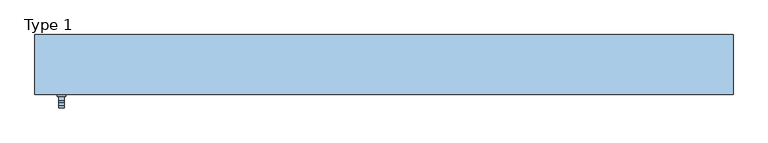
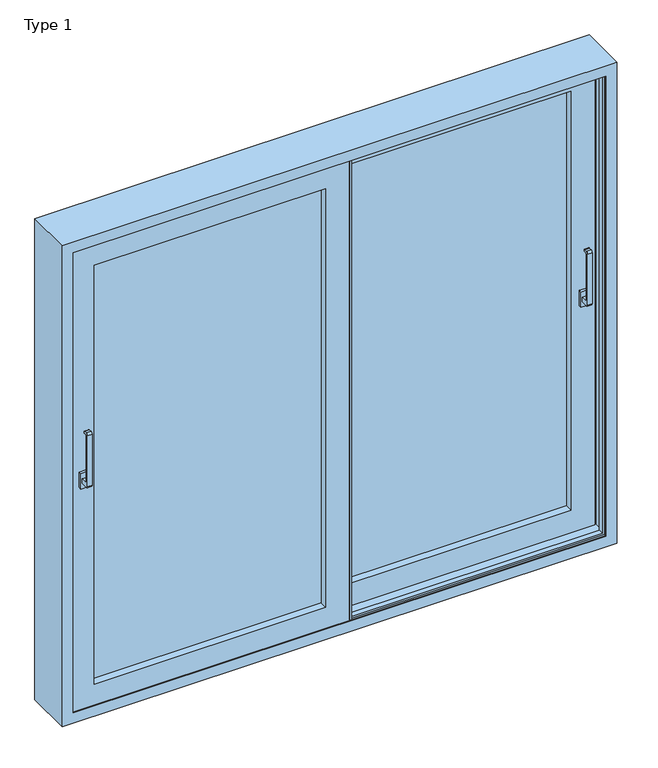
"""IFC4 building model written with IfcOpenShell, lengths in millimetres: window geometry, ETEM_ES70_Double_Fly Screen_Lift_Sliding : Type 1."""

from ifc_helpers import new_model, si_unit, point, frame, frame_2d, origin, place, context, project, spatial, polyline, circle_curve, ellipse_curve, trimmed, segment, composite_curve, outline, extrude, faceted_brep, source, transform, mapped, element, save
from ifc_brep_helpers import plane_surface, cylinder_surface, revolved_surface, advanced_brep


def type_1_2f14744b(model_context):
    return source(origin(), model_context, "Body", "SolidModel", [
        extrude(outline(polyline([(1123.5, 7.6), (1093.5, 7.6), (1093.5, 20.6), (1123.5, 20.6), (1123.5, 7.6)])), frame((0.0, 0.0, 1065.0), z_axis=(0.0, 0.0, 1.0), x_axis=(1.0, 0.0, 0.0)), (0.0, 0.0, 1.0), 70.0),
        extrude(outline(composite_curve([segment(polyline([(7.6, 1090.0), (-23.9736848, 1090.0)]), True, "CONTINUOUS"), segment(trimmed(circle_curve(frame_2d((-23.9736848, 1098.4263152)), 8.4263152), [point((-23.9736848, 1090.0))], [point((-32.4, 1098.4263152))], False, "CARTESIAN"), True, "CONTINUOUS"), segment(polyline([(-32.4, 1098.4263152), (-32.4, 1331.5736848)]), True, "CONTINUOUS"), segment(trimmed(circle_curve(frame_2d((-23.9736848, 1331.5736848)), 8.4263152), [point((-32.4, 1331.5736848))], [point((-23.9736848, 1340.0))], False, "CARTESIAN"), True, "CONTINUOUS"), segment(polyline([(-23.9736848, 1340.0), (-12.4, 1340.0)]), True, "CONTINUOUS"), segment(trimmed(circle_curve(frame_2d((-12.4, 1335.0)), 5.0), [point((-12.4, 1340.0))], [point((-12.4, 1330.0))], False, "CARTESIAN"), True, "CONTINUOUS"), segment(polyline([(-12.4, 1330.0), (-18.8644661, 1330.0)]), True, "CONTINUOUS"), segment(trimmed(circle_curve(frame_2d((-18.8644661, 1326.4644661)), 3.5355339), [point((-18.8644661, 1330.0))], [point((-22.4, 1326.4644661))], True, "CARTESIAN"), True, "CONTINUOUS"), segment(polyline([(-22.4, 1326.4644661), (-22.4, 1113.5355339)]), True, "CONTINUOUS"), segment(trimmed(circle_curve(frame_2d((-18.8644661, 1113.5355339)), 3.5355339), [point((-22.4, 1113.5355339))], [point((-18.8644661, 1110.0))], True, "CARTESIAN"), True, "CONTINUOUS"), segment(polyline([(-18.8644661, 1110.0), (7.6, 1110.0), (7.6, 1090.0)]), True, "CONTINUOUS")], self_intersect=False)), frame((1098.5, 0.0, 0.0), z_axis=(1.0, 0.0, 0.0), x_axis=(0.0, 1.0, 0.0)), (0.0, 0.0, 1.0), 20.0),
        extrude(outline(polyline([(-1093.5, -82.4), (-1123.5, -82.4), (-1123.5, -69.4), (-1093.5, -69.4), (-1093.5, -82.4)])), frame((0.0, 0.0, 1065.0), z_axis=(0.0, 0.0, 1.0), x_axis=(1.0, 0.0, 0.0)), (0.0, 0.0, 1.0), 70.0),
        extrude(outline(composite_curve([segment(polyline([(-82.4, 1090.0), (-113.9736848, 1090.0)]), True, "CONTINUOUS"), segment(trimmed(circle_curve(frame_2d((-113.9736848, 1098.4263152)), 8.4263152), [point((-113.9736848, 1090.0))], [point((-122.4, 1098.4263152))], False, "CARTESIAN"), True, "CONTINUOUS"), segment(polyline([(-122.4, 1098.4263152), (-122.4, 1331.5736848)]), True, "CONTINUOUS"), segment(trimmed(circle_curve(frame_2d((-113.9736848, 1331.5736848)), 8.4263152), [point((-122.4, 1331.5736848))], [point((-113.9736848, 1340.0))], False, "CARTESIAN"), True, "CONTINUOUS"), segment(polyline([(-113.9736848, 1340.0), (-102.4, 1340.0)]), True, "CONTINUOUS"), segment(trimmed(circle_curve(frame_2d((-102.4, 1335.0)), 5.0), [point((-102.4, 1340.0))], [point((-102.4, 1330.0))], False, "CARTESIAN"), True, "CONTINUOUS"), segment(polyline([(-102.4, 1330.0), (-108.8644661, 1330.0)]), True, "CONTINUOUS"), segment(trimmed(circle_curve(frame_2d((-108.8644661, 1326.4644661)), 3.5355339), [point((-108.8644661, 1330.0))], [point((-112.4, 1326.4644661))], True, "CARTESIAN"), True, "CONTINUOUS"), segment(polyline([(-112.4, 1326.4644661), (-112.4, 1113.5355339)]), True, "CONTINUOUS"), segment(trimmed(circle_curve(frame_2d((-108.8644661, 1113.5355339)), 3.5355339), [point((-112.4, 1113.5355339))], [point((-108.8644661, 1110.0))], True, "CARTESIAN"), True, "CONTINUOUS"), segment(polyline([(-108.8644661, 1110.0), (-82.4, 1110.0), (-82.4, 1090.0)]), True, "CONTINUOUS")], self_intersect=False)), frame((-1118.5, 0.0, 0.0), z_axis=(1.0, 0.0, 0.0), x_axis=(0.0, 1.0, 0.0)), (0.0, 0.0, 1.0), 20.0),
        faceted_brep([(46.5, -57.0, 2161.0), (46.5, -69.4, 2161.0), (46.5, -69.4, 39.0), (46.5, -57.0, 39.0), (-1161.0, -69.4, 2161.0), (-1161.0, -69.4, 39.0), (-56.5, -69.4, 142.0), (-1058.0, -69.4, 142.0), (-1058.0, -69.4, 2058.0), (-56.5, -69.4, 2058.0), (-1161.0, -57.0, 39.0), (-1161.0, -57.0, 2161.0), (15.4, -57.0, 2129.9), (-1129.9, -57.0, 2129.9), (-1129.9, -57.0, 70.1), (15.4, -57.0, 70.1), (15.4, -11.8, 2129.9), (15.4, -11.8, 70.1), (-1129.9, -11.8, 70.1), (46.5, -11.8, 2161.0), (-1161.0, -11.8, 2161.0), (-1161.0, -11.8, 39.0), (46.5, -11.8, 39.0), (-1129.9, -11.8, 2129.9), (46.5, 0.6, 2161.0), (46.5, 0.6, 39.0), (-1161.0, 0.6, 39.0), (-1161.0, 0.6, 2161.0), (-56.5, 0.6, 2058.0), (-1058.0, 0.6, 2058.0), (-1058.0, 0.6, 142.0), (-56.5, 0.6, 142.0)], [[[0, 1, 2, 3]], [[1, 4, 5, 2], [6, 7, 8, 9]], [[3, 2, 5, 10]], [[3, 10, 11, 0], [12, 13, 14, 15]], [[16, 12, 15, 17]], [[17, 15, 14, 18]], [[19, 20, 21, 22], [17, 18, 23, 16]], [[24, 19, 22, 25]], [[25, 22, 21, 26]], [[25, 26, 27, 24], [28, 29, 30, 31]], [[9, 28, 31, 6]], [[6, 31, 30, 7]], [[10, 5, 4, 11]], [[18, 14, 13, 23]], [[26, 21, 20, 27]], [[7, 30, 29, 8]], [[11, 4, 1, 0]], [[23, 13, 12, 16]], [[27, 20, 19, 24]], [[8, 29, 28, 9]]]),
        faceted_brep([(-46.5, 78.2, 2161.0), (-46.5, 90.6, 2161.0), (-46.5, 90.6, 39.0), (-46.5, 78.2, 39.0), (1161.0, 90.6, 39.0), (1161.0, 78.2, 39.0), (1161.0, 90.6, 2161.0), (1058.0, 90.6, 142.0), (1058.0, 90.6, 2058.0), (56.5, 90.6, 2058.0), (56.5, 90.6, 142.0), (1161.0, 78.2, 2161.0), (-15.4, 78.2, 70.1), (-15.4, 78.2, 2129.9), (1129.9, 78.2, 2129.9), (1129.9, 78.2, 70.1), (-15.4, 33.0, 2129.9), (-15.4, 33.0, 70.1), (1129.9, 33.0, 70.1), (1129.9, 33.0, 2129.9), (-46.5, 33.0, 39.0), (-46.5, 33.0, 2161.0), (1161.0, 33.0, 2161.0), (1161.0, 33.0, 39.0), (-46.5, 20.6, 2161.0), (-46.5, 20.6, 39.0), (1161.0, 20.6, 39.0), (1161.0, 20.6, 2161.0), (56.5, 20.6, 142.0), (56.5, 20.6, 2058.0), (1058.0, 20.6, 2058.0), (1058.0, 20.6, 142.0)], [[[0, 1, 2, 3]], [[3, 2, 4, 5]], [[2, 1, 6, 4], [7, 8, 9, 10]], [[5, 4, 6, 11]], [[5, 11, 0, 3], [12, 13, 14, 15]], [[16, 13, 12, 17]], [[17, 12, 15, 18]], [[18, 15, 14, 19]], [[20, 21, 22, 23], [18, 19, 16, 17]], [[24, 21, 20, 25]], [[25, 20, 23, 26]], [[26, 23, 22, 27]], [[26, 27, 24, 25], [28, 29, 30, 31]], [[9, 29, 28, 10]], [[10, 28, 31, 7]], [[7, 31, 30, 8]], [[11, 6, 1, 0]], [[19, 14, 13, 16]], [[27, 22, 21, 24]], [[8, 30, 29, 9]]]),
        extrude(outline(polyline([(56.5, -69.4), (46.5, -69.4), (46.5, 16.6), (56.5, 16.6), (56.5, -69.4)])), frame((0.0, 0.0, 39.0), z_axis=(0.0, 0.0, 1.0), x_axis=(1.0, 0.0, 0.0)), (0.0, 0.0, 1.0), 2122.0),
        extrude(outline(polyline([(-56.5, 6.6), (-56.5, 90.6), (-46.5, 90.6), (-46.5, 6.6), (-56.5, 6.6)])), frame((0.0, 0.0, 39.0), z_axis=(0.0, 0.0, 1.0), x_axis=(1.0, 0.0, 0.0)), (0.0, 0.0, 1.0), 2122.0),
        extrude(outline(polyline([(-56.5, -35.3992409), (-1058.0, -35.3992409), (-1058.0, -29.3992409), (-56.5, -29.3992409), (-56.5, -35.3992409)])), frame((0.0, 0.0, 142.0), z_axis=(0.0, 0.0, 1.0), x_axis=(1.0, 0.0, 0.0)), (0.0, 0.0, 1.0), 1916.0),
        extrude(outline(polyline([(56.5, 82.6007591), (1058.0, 82.6007591), (1058.0, 76.6007591), (56.5, 76.6007591), (56.5, 82.6007591)])), frame((0.0, 0.0, 142.0), z_axis=(0.0, 0.0, 1.0), x_axis=(1.0, 0.0, 0.0)), (0.0, 0.0, 1.0), 1916.0),
        faceted_brep([(1200.0, 130.0, 0.0), (-1200.0, 130.0, 0.0), (-1200.0, 130.0, 2200.0), (1200.0, 130.0, 2200.0), (1183.7, 130.0, 2183.7), (-1183.7, 130.0, 2183.7), (-1183.7, 130.0, 16.3), (1183.7, 130.0, 16.3), (1200.0, -76.0, 2200.0), (-1200.0, -76.0, 2200.0), (-1200.0, -76.0, 0.0), (1200.0, -76.0, 0.0), (1152.0, -76.0, 48.0), (-1152.0, -76.0, 48.0), (-1152.0, -76.0, 2152.0), (1152.0, -76.0, 2152.0), (1183.7, 60.1, 16.3), (1183.7, 109.1, 16.3), (-1183.7, 109.1, 16.3), (-1183.7, 60.1, 16.3), (1183.7, 60.1, 2183.7), (1183.7, 109.1, 2183.7), (-1183.7, 109.1, 2183.7), (-1183.7, 60.1, 2183.7), (1160.0, 60.1, 2160.0), (-1160.0, 60.1, 2160.0), (-1160.0, 60.1, 40.0), (1160.0, 60.1, 40.0), (1160.0, 74.1, 2160.0), (1160.0, 74.1, 40.0), (-1160.0, 74.1, 40.0), (-1160.0, 74.1, 2160.0), (1152.0, 74.1, 2152.0), (-1152.0, 74.1, 2152.0), (-1152.0, 74.1, 48.0), (1152.0, 74.1, 48.0), (1152.0, 51.1, 2152.0), (1152.0, 51.1, 48.0), (-1152.0, 51.1, 48.0), (1183.7, 51.1, 2183.7), (-1183.7, 51.1, 2183.7), (-1183.7, 51.1, 16.3), (1183.7, 51.1, 16.3), (-1152.0, 51.1, 2152.0), (1183.7, -29.9, 2183.7), (1183.7, -29.9, 16.3), (-1183.7, -29.9, 16.3), (-1183.7, -29.9, 2183.7), (1152.0, -29.9, 2152.0), (-1152.0, -29.9, 2152.0), (-1152.0, -29.9, 48.0), (1152.0, -29.9, 48.0), (1152.0, -52.9, 2152.0), (1152.0, -52.9, 48.0), (-1152.0, -52.9, 48.0), (1160.0, -52.9, 2160.0), (-1160.0, -52.9, 2160.0), (-1160.0, -52.9, 40.0), (1160.0, -52.9, 40.0), (-1152.0, -52.9, 2152.0), (1160.0, -38.9, 2160.0), (1160.0, -38.9, 40.0), (-1160.0, -38.9, 40.0), (1183.7, -38.9, 2183.7), (-1183.7, -38.9, 2183.7), (-1183.7, -38.9, 16.3), (1183.7, -38.9, 16.3), (-1160.0, -38.9, 2160.0), (1183.7, -72.2, 2183.7), (1183.7, -72.2, 16.3), (-1183.7, -72.2, 16.3), (-1183.7, -72.2, 2183.7), (1152.0, -72.2, 2152.0), (-1152.0, -72.2, 2152.0), (-1152.0, -72.2, 48.0), (1152.0, -72.2, 48.0), (1152.0, 109.1, 48.0), (-1152.0, 109.1, 48.0), (-1152.0, 109.1, 2152.0), (1152.0, 109.1, 2152.0), (-1183.7, 118.1, 16.3), (-1183.7, 118.1, 2183.7), (1183.7, 118.1, 16.3), (1183.7, 118.1, 2183.7), (1152.0, 118.1, 2152.0), (-1152.0, 118.1, 2152.0), (-1152.0, 118.1, 48.0), (1152.0, 118.1, 48.0)], [[[0, 1, 2, 3], [4, 5, 6, 7]], [[8, 9, 10, 11], [12, 13, 14, 15]], [[16, 17, 18, 19]], [[20, 21, 17, 16]], [[19, 18, 22, 23]], [[16, 19, 23, 20], [24, 25, 26, 27]], [[28, 24, 27, 29]], [[29, 27, 26, 30]], [[29, 30, 31, 28], [32, 33, 34, 35]], [[36, 32, 35, 37]], [[37, 35, 34, 38]], [[39, 40, 41, 42], [37, 38, 43, 36]], [[44, 39, 42, 45]], [[45, 42, 41, 46]], [[45, 46, 47, 44], [48, 49, 50, 51]], [[52, 48, 51, 53]], [[53, 51, 50, 54]], [[55, 56, 57, 58], [53, 54, 59, 52]], [[60, 55, 58, 61]], [[61, 58, 57, 62]], [[63, 64, 65, 66], [61, 62, 67, 60]], [[68, 63, 66, 69]], [[69, 66, 65, 70]], [[69, 70, 71, 68], [72, 73, 74, 75]], [[15, 72, 75, 12]], [[12, 75, 74, 13]], [[30, 26, 25, 31]], [[38, 34, 33, 43]], [[46, 41, 40, 47]], [[54, 50, 49, 59]], [[62, 57, 56, 67]], [[70, 65, 64, 71]], [[13, 74, 73, 14]], [[23, 22, 21, 20]], [[31, 25, 24, 28]], [[43, 33, 32, 36]], [[47, 40, 39, 44]], [[59, 49, 48, 52]], [[67, 56, 55, 60]], [[71, 64, 63, 68]], [[14, 73, 72, 15]], [[8, 11, 0, 3]], [[0, 11, 10, 1]], [[21, 22, 18, 17], [76, 77, 78, 79]], [[1, 10, 9, 2]], [[80, 6, 5, 81]], [[82, 7, 6, 80]], [[83, 4, 7, 82]], [[82, 80, 81, 83], [84, 85, 86, 87]], [[79, 84, 87, 76]], [[76, 87, 86, 77]], [[77, 86, 85, 78]], [[2, 9, 8, 3]], [[81, 5, 4, 83]], [[78, 85, 84, 79]]]),
        extrude(outline(polyline([(56.5, 60.6007591), (1058.0, 60.6007591), (1058.0, 54.6007591), (56.5, 54.6007591), (56.5, 60.6007591)])), frame((0.0, 0.0, 142.0), z_axis=(0.0, 0.0, 1.0), x_axis=(1.0, 0.0, 0.0)), (0.0, 0.0, 1.0), 1916.0),
        extrude(outline(polyline([(-56.5, -13.3992409), (-1058.0, -13.3992409), (-1058.0, -7.3992409), (-56.5, -7.3992409), (-56.5, -13.3992409)])), frame((0.0, 0.0, 142.0), z_axis=(0.0, 0.0, 1.0), x_axis=(1.0, 0.0, 0.0)), (0.0, 0.0, 1.0), 1916.0),
        extrude(outline(polyline([(-52.4499998, 102.6007546), (-1090.0, 102.6007546), (-1090.0, 103.6007546), (-52.4499998, 103.6007546), (-52.4499998, 102.6007546)])), frame((0.0, 0.0, 110.0), z_axis=(0.0, 0.0, 1.0), x_axis=(1.0, 0.0, 0.0)), (0.0, 0.0, 1.0), 1980.0),
        advanced_brep(
        [(18.5500002, 102.0050033, 2161.0), (15.5500002, 100.6507546, 2158.0), (15.5500002, 100.6507546, 42.0), (18.5500002, 102.0050033, 39.0), (-1158.0, 100.6507546, 2158.0), (-1158.0, 100.6507546, 42.0), (-27.6499998, 100.6507546, 85.2), (-1114.8, 100.6507546, 85.2), (-1114.8, 100.6507546, 2114.8), (-27.6499998, 100.6507546, 2114.8), (-1161.0, 102.0050033, 39.0), (18.5500002, 105.1507546, 2161.0), (18.5500002, 105.1507546, 39.0), (-1161.0, 105.1507546, 39.0), (-1161.0, 105.1507546, 2161.0), (8.2500002, 105.1507546, 2150.7), (-1150.7, 105.1507546, 2150.7), (-1150.7, 105.1507546, 49.3), (8.2500002, 105.1507546, 49.3), (8.2500002, 122.1507546, 2150.7), (8.2500002, 122.1507546, 49.3), (-1150.7, 122.1507546, 49.3), (18.5500002, 122.1507546, 2161.0), (-1161.0, 122.1507546, 2161.0), (-1161.0, 122.1507546, 39.0), (18.5500002, 122.1507546, 39.0), (-1150.7, 122.1507546, 2150.7), (18.5500002, 125.296506, 2161.0), (18.5500002, 125.296506, 39.0), (-1161.0, 125.296506, 39.0), (15.5500002, 126.6507546, 2158.0), (15.5500002, 126.6507546, 42.0), (-1158.0, 126.6507546, 42.0), (-1158.0, 126.6507546, 2158.0), (-27.6499998, 126.6507546, 2114.8), (-1114.8, 126.6507546, 2114.8), (-1114.8, 126.6507546, 85.2), (-27.6499998, 126.6507546, 85.2), (-56.4499998, 103.6507546, 2086.0), (-56.4499998, 122.6507546, 2086.0), (-56.4499998, 122.6507546, 114.0), (-56.4499998, 103.6507546, 114.0), (-53.1558821, 126.5879783, 2089.2941177), (-53.1558821, 126.5879783, 110.7058823), (-1086.0, 122.6507546, 114.0), (-1086.0, 103.6507546, 114.0), (-49.0499998, 103.6507546, 2093.4), (-1093.4, 103.6507546, 2093.4), (-1093.4, 103.6507546, 106.6), (-49.0499998, 103.6507546, 106.6), (-1086.0, 103.6507546, 2086.0), (-1161.0, 102.0050033, 2161.0), (-1161.0, 125.296506, 2161.0), (-1089.2941177, 126.5879783, 110.7058823), (-1086.0, 122.6507546, 2086.0), (-1089.2941177, 126.5879783, 2089.2941177), (-27.6499998, 108.9507546, 85.2), (-1114.8, 108.9507546, 85.2), (-1114.8, 108.9507546, 2114.8), (-27.6499998, 108.9507546, 2114.8), (-1114.8, 118.3507546, 85.2), (-1114.8, 118.3507546, 2114.8), (-27.6499998, 118.3507546, 85.2), (-27.6499998, 118.3507546, 2114.8), (-47.8499998, 108.9507546, 2094.6), (-47.8499998, 102.3507546, 2094.6), (-47.8499998, 102.3507546, 105.4), (-47.8499998, 108.9507546, 105.4), (-47.3047319, 101.852808, 2095.1452679), (-47.3047319, 101.852808, 104.8547321), (-1094.6, 102.3507546, 105.4), (-1094.6, 108.9507546, 105.4), (-1094.6, 108.9507546, 2094.6), (-54.0499998, 118.3507546, 2088.4), (-1088.4, 118.3507546, 2088.4), (-1088.4, 118.3507546, 111.6), (-54.0499998, 118.3507546, 111.6), (-55.2499998, 119.5507546, 2087.2), (-55.2499998, 119.5507546, 112.8), (-1087.2, 119.5507546, 112.8), (-55.2499998, 122.6507546, 2087.2), (-55.2499998, 122.6507546, 112.8), (-1087.2, 122.6507546, 112.8), (-52.9441174, 125.4068112, 2089.5058824), (-52.9441174, 125.4068112, 110.4941176), (-1089.5058824, 125.4068112, 110.4941176), (-1095.1452679, 101.852808, 104.8547321), (-1094.6, 102.3507546, 2094.6), (-1087.2, 119.5507546, 2087.2), (-1087.2, 122.6507546, 2087.2), (-1089.5058824, 125.4068112, 2089.5058824), (-1095.1452679, 101.852808, 2095.1452679), (-1093.4, 100.6507546, 106.6), (-1093.4, 100.6507546, 2093.4), (-49.0499998, 100.6507546, 106.6), (-49.0499998, 100.6507546, 2093.4), (-47.2499998, 100.6507546, 2095.2), (-1095.2, 100.6507546, 2095.2), (-1095.2, 100.6507546, 104.8), (-47.2499998, 100.6507546, 104.8)],
        [
            (0, 1, ellipse_curve(frame((15.5500002, 104.6507546, 2158.0), z_axis=(0.7071067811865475, 0.0, -0.7071067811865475), x_axis=(0.7071067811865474, 0.0, 0.7071067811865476)), 5.6568542, 4.0)),
            (1, 2),
            (2, 3, ellipse_curve(frame((15.5500002, 104.6507546, 42.0), z_axis=(0.7071067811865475, 0.0, 0.7071067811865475), x_axis=(-0.7071067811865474, 0.0, 0.7071067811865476)), 5.6568542, 4.0)),
            (3, 0),
            (1, 4),
            (4, 5),
            (5, 2),
            (6, 7),
            (7, 8),
            (8, 9),
            (9, 6),
            (5, 10, ellipse_curve(frame((-1158.0, 104.6507546, 42.0), z_axis=(0.7071067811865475, 0.0, -0.7071067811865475), x_axis=(0.7071067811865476, 0.0, 0.7071067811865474)), 5.6568542, 4.0)),
            (10, 3),
            (11, 0),
            (3, 12),
            (12, 11),
            (10, 13),
            (13, 12),
            (13, 14),
            (14, 11),
            (15, 16),
            (16, 17),
            (17, 18),
            (18, 15),
            (19, 15),
            (18, 20),
            (20, 19),
            (17, 21),
            (21, 20),
            (22, 23),
            (23, 24),
            (24, 25),
            (25, 22),
            (21, 26),
            (26, 19),
            (27, 22),
            (25, 28),
            (28, 27),
            (24, 29),
            (29, 28),
            (30, 27, ellipse_curve(frame((15.5500002, 122.6507546, 2158.0), z_axis=(0.7071067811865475, 0.0, -0.7071067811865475), x_axis=(0.7071067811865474, 0.0, 0.7071067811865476)), 5.6568542, 4.0)),
            (28, 31, ellipse_curve(frame((15.5500002, 122.6507546, 42.0), z_axis=(0.7071067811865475, 0.0, 0.7071067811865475), x_axis=(-0.7071067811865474, 0.0, 0.7071067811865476)), 5.6568542, 4.0)),
            (31, 30),
            (29, 32, ellipse_curve(frame((-1158.0, 122.6507546, 42.0), z_axis=(0.7071067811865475, 0.0, -0.7071067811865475), x_axis=(0.7071067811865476, 0.0, 0.7071067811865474)), 5.6568542, 4.0)),
            (32, 31),
            (32, 33),
            (33, 30),
            (34, 35),
            (35, 36),
            (36, 37),
            (37, 34),
            (38, 39),
            (39, 40),
            (40, 41),
            (41, 38),
            (39, 42, ellipse_curve(frame((-52.4499998, 122.6507546, 2090.0), z_axis=(0.7071067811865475, 0.0, -0.7071067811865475), x_axis=(0.7071067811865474, 0.0, 0.7071067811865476)), 5.6568542, 4.0)),
            (42, 43),
            (43, 40, ellipse_curve(frame((-52.4499998, 122.6507546, 110.0), z_axis=(0.7071067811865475, 0.0, 0.7071067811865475), x_axis=(-0.7071067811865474, 0.0, 0.7071067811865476)), 5.6568542, 4.0)),
            (40, 44),
            (44, 45),
            (45, 41),
            (46, 47),
            (47, 48),
            (48, 49),
            (49, 46),
            (45, 50),
            (50, 38),
            (4, 51, ellipse_curve(frame((-1158.0, 104.6507546, 2158.0), z_axis=(-0.7071067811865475, 0.0, -0.7071067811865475), x_axis=(0.7071067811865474, 0.0, -0.7071067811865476)), 5.6568542, 4.0)),
            (51, 10),
            (51, 14),
            (16, 26),
            (23, 52),
            (52, 29),
            (52, 33, ellipse_curve(frame((-1158.0, 122.6507546, 2158.0), z_axis=(-0.7071067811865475, 0.0, -0.7071067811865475), x_axis=(0.7071067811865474, 0.0, -0.7071067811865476)), 5.6568542, 4.0)),
            (43, 53),
            (53, 44, ellipse_curve(frame((-1090.0, 122.6507546, 110.0), z_axis=(0.7071067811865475, 0.0, -0.7071067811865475), x_axis=(0.7071067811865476, 0.0, 0.7071067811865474)), 5.6568542, 4.0)),
            (44, 54),
            (54, 50),
            (53, 55),
            (55, 54, ellipse_curve(frame((-1090.0, 122.6507546, 2090.0), z_axis=(-0.7071067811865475, 0.0, -0.7071067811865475), x_axis=(0.7071067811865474, 0.0, -0.7071067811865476)), 5.6568542, 4.0)),
            (6, 56),
            (56, 57),
            (57, 7),
            (57, 58),
            (58, 8),
            (9, 59),
            (59, 56),
            (60, 36),
            (35, 61),
            (61, 60),
            (62, 37),
            (60, 62),
            (63, 34),
            (62, 63),
            (64, 65),
            (65, 66),
            (66, 67),
            (67, 64),
            (65, 68, ellipse_curve(frame((-47.3499998, 102.3507546, 2095.1), z_axis=(-0.7071067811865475, 0.0, 0.7071067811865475), x_axis=(-0.7071067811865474, 0.0, -0.7071067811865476)), 0.7071068, 0.5)),
            (68, 69),
            (69, 66, ellipse_curve(frame((-47.3499998, 102.3507546, 104.9), z_axis=(-0.7071067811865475, 0.0, -0.7071067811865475), x_axis=(0.7071067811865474, 0.0, -0.7071067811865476)), 0.7071068, 0.5)),
            (66, 70),
            (70, 71),
            (71, 67),
            (59, 58),
            (71, 72),
            (72, 64),
            (61, 63),
            (73, 74),
            (74, 75),
            (75, 76),
            (76, 73),
            (77, 73, ellipse_curve(frame((-54.0499998, 119.5507546, 2088.4), z_axis=(-0.7071067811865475, 0.0, 0.7071067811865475), x_axis=(-0.7071067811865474, 0.0, -0.7071067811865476)), 1.6970563, 1.2)),
            (76, 78, ellipse_curve(frame((-54.0499998, 119.5507546, 111.6), z_axis=(-0.7071067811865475, 0.0, -0.7071067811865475), x_axis=(0.7071067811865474, 0.0, -0.7071067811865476)), 1.6970563, 1.2)),
            (78, 77),
            (75, 79, ellipse_curve(frame((-1088.4, 119.5507546, 111.6), z_axis=(-0.7071067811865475, 0.0, 0.7071067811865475), x_axis=(-0.7071067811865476, 0.0, -0.7071067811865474)), 1.6970563, 1.2)),
            (79, 78),
            (80, 77),
            (78, 81),
            (81, 80),
            (79, 82),
            (82, 81),
            (83, 80, ellipse_curve(frame((-52.4499998, 122.6507546, 2090.0), z_axis=(-0.7071067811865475, 0.0, 0.7071067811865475), x_axis=(-0.7071067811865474, 0.0, -0.7071067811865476)), 3.959798, 2.8)),
            (81, 84, ellipse_curve(frame((-52.4499998, 122.6507546, 110.0), z_axis=(-0.7071067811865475, 0.0, -0.7071067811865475), x_axis=(0.7071067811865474, 0.0, -0.7071067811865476)), 3.959798, 2.8)),
            (84, 83),
            (82, 85, ellipse_curve(frame((-1090.0, 122.6507546, 110.0), z_axis=(-0.7071067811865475, 0.0, 0.7071067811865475), x_axis=(-0.7071067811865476, 0.0, -0.7071067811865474)), 3.959798, 2.8)),
            (85, 84),
            (42, 83, ellipse_curve(frame((-53.0499998, 125.9973947, 2089.4), z_axis=(0.7071067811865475, 0.0, -0.7071067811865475), x_axis=(0.7071067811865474, 0.0, 0.7071067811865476)), 0.8485281, 0.6)),
            (84, 43, ellipse_curve(frame((-53.0499998, 125.9973947, 110.6), z_axis=(0.7071067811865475, 0.0, 0.7071067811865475), x_axis=(-0.7071067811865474, 0.0, 0.7071067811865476)), 0.8485281, 0.6)),
            (85, 53, ellipse_curve(frame((-1089.4, 125.9973947, 110.6), z_axis=(0.7071067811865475, 0.0, -0.7071067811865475), x_axis=(0.7071067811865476, 0.0, 0.7071067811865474)), 0.8485281, 0.6)),
            (69, 86),
            (86, 70, ellipse_curve(frame((-1095.1, 102.3507546, 104.9), z_axis=(-0.7071067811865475, 0.0, 0.7071067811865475), x_axis=(-0.7071067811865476, 0.0, -0.7071067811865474)), 0.7071068, 0.5)),
            (70, 87),
            (87, 72),
            (74, 88, ellipse_curve(frame((-1088.4, 119.5507546, 2088.4), z_axis=(0.7071067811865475, 0.0, 0.7071067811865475), x_axis=(-0.7071067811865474, 0.0, 0.7071067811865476)), 1.6970563, 1.2)),
            (88, 79),
            (88, 89),
            (89, 82),
            (89, 90, ellipse_curve(frame((-1090.0, 122.6507546, 2090.0), z_axis=(0.7071067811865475, 0.0, 0.7071067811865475), x_axis=(-0.7071067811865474, 0.0, 0.7071067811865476)), 3.959798, 2.8)),
            (90, 85),
            (90, 55, ellipse_curve(frame((-1089.4, 125.9973947, 2089.4), z_axis=(-0.7071067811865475, 0.0, -0.7071067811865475), x_axis=(0.7071067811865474, 0.0, -0.7071067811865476)), 0.8485281, 0.6)),
            (86, 91),
            (91, 87, ellipse_curve(frame((-1095.1, 102.3507546, 2095.1), z_axis=(0.7071067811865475, 0.0, 0.7071067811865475), x_axis=(-0.7071067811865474, 0.0, 0.7071067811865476)), 0.7071068, 0.5)),
            (92, 48),
            (47, 93),
            (93, 92),
            (94, 49),
            (92, 94),
            (95, 46),
            (94, 95),
            (96, 97),
            (97, 98),
            (98, 99),
            (99, 96),
            (93, 95),
            (86, 98, ellipse_curve(frame((-1095.2, 101.2507546, 104.8), z_axis=(-0.7071067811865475, 0.0, 0.7071067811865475), x_axis=(-0.7071067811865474, 0.0, -0.7071067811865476)), 0.8485281, 0.6)),
            (97, 91, ellipse_curve(frame((-1095.2, 101.2507546, 2095.2), z_axis=(-0.7071067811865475, 0.0, -0.7071067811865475), x_axis=(0.7071067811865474, 0.0, -0.7071067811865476)), 0.8485281, 0.6)),
            (69, 99, ellipse_curve(frame((-47.2499998, 101.2507546, 104.8), z_axis=(-0.7071067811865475, 0.0, -0.7071067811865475), x_axis=(0.7071067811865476, 0.0, -0.7071067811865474)), 0.8485281, 0.6)),
            (68, 96, ellipse_curve(frame((-47.2499998, 101.2507546, 2095.2), z_axis=(0.7071067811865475, 0.0, -0.7071067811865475), x_axis=(0.7071067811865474, 0.0, 0.7071067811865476)), 0.8485281, 0.6)),
            (0, 51),
            (27, 52),
            (54, 39),
            (87, 65),
            (77, 88),
            (80, 89),
            (83, 90),
            (42, 55),
            (68, 91),
        ],
        [
            cylinder_surface(frame((15.5500002, 104.6507546, 2161.0), z_axis=(0.0, 0.0, 1.0), x_axis=(1.0, 0.0, 0.0)), 4.0),
            plane_surface(frame((-1114.8, 100.6507546, 2114.8), z_axis=(0.0, -1.0, 0.0), x_axis=(1.0, 0.0, 0.0))),
            cylinder_surface(frame((18.5500002, 104.6507546, 42.0), z_axis=(1.0, 0.0, 0.0), x_axis=(0.0, 0.0, -1.0)), 4.0),
            plane_surface(frame((18.5500002, 102.0050033, 2161.0), z_axis=(1.0, 0.0, 0.0), x_axis=(0.0, 0.0, -1.0))),
            plane_surface(frame((18.5500002, 102.0050033, 39.0), z_axis=(0.0, 0.0, -1.0), x_axis=(-1.0, 0.0, 0.0))),
            plane_surface(frame((-1161.0, 105.1507546, 2161.0), z_axis=(0.0, 1.0, 0.0), x_axis=(1.0, 0.0, 0.0))),
            plane_surface(frame((8.2500002, 105.1507546, 2150.7), z_axis=(1.0, 0.0, 0.0), x_axis=(0.0, 0.0, -1.0))),
            plane_surface(frame((8.2500002, 105.1507546, 49.3), z_axis=(0.0, 0.0, -1.0), x_axis=(-1.0, 0.0, 0.0))),
            plane_surface(frame((-1150.7, 122.1507546, 2150.7), z_axis=(0.0, -1.0, 0.0), x_axis=(1.0, 0.0, 0.0))),
            plane_surface(frame((18.5500002, 122.1507546, 2161.0), z_axis=(1.0, 0.0, 0.0), x_axis=(0.0, 0.0, -1.0))),
            plane_surface(frame((18.5500002, 122.1507546, 39.0), z_axis=(0.0, 0.0, -1.0), x_axis=(-1.0, 0.0, 0.0))),
            cylinder_surface(frame((15.5500002, 122.6507546, 2161.0), z_axis=(0.0, 0.0, 1.0), x_axis=(1.0, 0.0, 0.0)), 4.0),
            cylinder_surface(frame((18.5500002, 122.6507546, 42.0), z_axis=(1.0, 0.0, 0.0), x_axis=(0.0, 0.0, -1.0)), 4.0),
            plane_surface(frame((-1158.0, 126.6507546, 2158.0), z_axis=(0.0, 1.0, 0.0), x_axis=(1.0, 0.0, 0.0))),
            plane_surface(frame((-56.4499998, 122.6507546, 2086.0), z_axis=(-1.0, 0.0, 0.0), x_axis=(0.0, 0.0, -1.0))),
            cylinder_surface(frame((-52.4499998, 122.6507546, 2161.0), z_axis=(0.0, 0.0, 1.0), x_axis=(1.0, 0.0, 0.0)), 4.0),
            plane_surface(frame((-56.4499998, 122.6507546, 114.0), z_axis=(0.0, 0.0, 1.0), x_axis=(-1.0, 0.0, 0.0))),
            plane_surface(frame((-1086.0, 103.6507546, 2086.0), z_axis=(0.0, -1.0, 0.0), x_axis=(1.0, 0.0, 0.0))),
            cylinder_surface(frame((-1158.0, 104.6507546, 39.0), z_axis=(0.0, 0.0, -1.0), x_axis=(-1.0, 0.0, 0.0)), 4.0),
            plane_surface(frame((-1161.0, 102.0050033, 39.0), z_axis=(-1.0, 0.0, 0.0), x_axis=(0.0, 0.0, 1.0))),
            plane_surface(frame((-1150.7, 105.1507546, 49.3), z_axis=(-1.0, 0.0, 0.0), x_axis=(0.0, 0.0, 1.0))),
            plane_surface(frame((-1161.0, 122.1507546, 39.0), z_axis=(-1.0, 0.0, 0.0), x_axis=(0.0, 0.0, 1.0))),
            cylinder_surface(frame((-1158.0, 122.6507546, 39.0), z_axis=(0.0, 0.0, -1.0), x_axis=(-1.0, 0.0, 0.0)), 4.0),
            cylinder_surface(frame((18.5500002, 122.6507546, 110.0), z_axis=(1.0, 0.0, 0.0), x_axis=(0.0, 0.0, -1.0)), 4.0),
            plane_surface(frame((-1086.0, 122.6507546, 114.0), z_axis=(1.0, 0.0, 0.0), x_axis=(0.0, 0.0, 1.0))),
            cylinder_surface(frame((-1090.0, 122.6507546, 39.0), z_axis=(0.0, 0.0, -1.0), x_axis=(-1.0, 0.0, 0.0)), 4.0),
            plane_surface(frame((-27.6499998, 108.9507546, 85.2), z_axis=(0.0, 0.0, 1.0), x_axis=(-1.0, 0.0, 0.0))),
            plane_surface(frame((-1114.8, 108.9507546, 85.2), z_axis=(1.0, 0.0, 0.0), x_axis=(0.0, 0.0, 1.0))),
            plane_surface(frame((-27.6499998, 108.9507546, 2114.8), z_axis=(-1.0, 0.0, 0.0), x_axis=(0.0, 0.0, -1.0))),
            plane_surface(frame((-1114.8, 126.6507546, 85.2), z_axis=(1.0, 0.0, 0.0), x_axis=(0.0, 0.0, 1.0))),
            plane_surface(frame((-27.6499998, 126.6507546, 85.2), z_axis=(0.0, 0.0, 1.0), x_axis=(-1.0, 0.0, 0.0))),
            plane_surface(frame((-27.6499998, 126.6507546, 2114.8), z_axis=(-1.0, 0.0, 0.0), x_axis=(0.0, 0.0, -1.0))),
            plane_surface(frame((-47.8499998, 102.3507546, 2094.6), z_axis=(1.0, 0.0, 0.0), x_axis=(0.0, 0.0, -1.0))),
            revolved_surface(polyline([(-46.8499998, 102.3507546, 104.39999998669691), (-46.8499998, 102.3507546, 2095.600000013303)]), (-47.3499998, 102.3507546, 2161.0), (0.0, 0.0, -1.0)),
            plane_surface(frame((-47.8499998, 102.3507546, 105.4), z_axis=(0.0, 0.0, -1.0), x_axis=(-1.0, 0.0, 0.0))),
            plane_surface(frame((-1094.6, 108.9507546, 2094.6), z_axis=(0.0, -1.0, 0.0), x_axis=(1.0, 0.0, 0.0))),
            plane_surface(frame((-1114.8, 118.3507546, 2114.8), z_axis=(0.0, 1.0, 0.0), x_axis=(1.0, 0.0, 0.0))),
            revolved_surface(polyline([(-52.8499998, 119.5507546, 110.39999998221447), (-52.8499998, 119.5507546, 2089.6000000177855)]), (-54.0499998, 119.5507546, 2161.0), (0.0, 0.0, -1.0)),
            revolved_surface(polyline([(-1089.6000000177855, 119.5507546, 110.39999999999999), (-52.84999978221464, 119.5507546, 110.39999999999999)]), (18.5500002, 119.5507546, 111.6), (-1.0, 0.0, 0.0)),
            plane_surface(frame((-55.2499998, 119.5507546, 2087.2), z_axis=(1.0, 0.0, 0.0), x_axis=(0.0, 0.0, -1.0))),
            plane_surface(frame((-55.2499998, 119.5507546, 112.8), z_axis=(0.0, 0.0, -1.0), x_axis=(-1.0, 0.0, 0.0))),
            revolved_surface(polyline([(-49.6499998, 122.6507546, 107.19999998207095), (-49.6499998, 122.6507546, 2092.800000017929)]), (-52.4499998, 122.6507546, 2161.0), (0.0, 0.0, -1.0)),
            revolved_surface(polyline([(-1092.8000000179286, 122.6507546, 107.2), (-49.64999978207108, 122.6507546, 107.2)]), (18.5500002, 122.6507546, 110.0), (-1.0, 0.0, 0.0)),
            cylinder_surface(frame((-53.0499998, 125.9973947, 2161.0), z_axis=(0.0, 0.0, 1.0), x_axis=(1.0, 0.0, 0.0)), 0.6),
            cylinder_surface(frame((18.5500002, 125.9973947, 110.6), z_axis=(1.0, 0.0, 0.0), x_axis=(0.0, 0.0, -1.0)), 0.6),
            revolved_surface(polyline([(-1095.600000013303, 102.3507546, 104.4), (-46.849999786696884, 102.3507546, 104.4)]), (18.5500002, 102.3507546, 104.9), (-1.0, 0.0, 0.0)),
            plane_surface(frame((-1094.6, 102.3507546, 105.4), z_axis=(-1.0, 0.0, 0.0), x_axis=(0.0, 0.0, 1.0))),
            revolved_surface(polyline([(-1089.6000000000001, 119.5507546, 2089.6000000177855), (-1089.6000000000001, 119.5507546, 110.39999998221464)]), (-1088.4, 119.5507546, 39.0), (0.0, 0.0, 1.0)),
            plane_surface(frame((-1087.2, 119.5507546, 112.8), z_axis=(-1.0, 0.0, 0.0), x_axis=(0.0, 0.0, 1.0))),
            revolved_surface(polyline([(-1092.8, 122.6507546, 2092.800000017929), (-1092.8, 122.6507546, 107.19999998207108)]), (-1090.0, 122.6507546, 39.0), (0.0, 0.0, 1.0)),
            cylinder_surface(frame((-1089.4, 125.9973947, 39.0), z_axis=(0.0, 0.0, -1.0), x_axis=(-1.0, 0.0, 0.0)), 0.6),
            revolved_surface(polyline([(-1095.6, 102.3507546, 2095.600000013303), (-1095.6, 102.3507546, 104.39999998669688)]), (-1095.1, 102.3507546, 39.0), (0.0, 0.0, 1.0)),
            plane_surface(frame((-1093.4, 103.6507546, 106.6), z_axis=(1.0, 0.0, 0.0), x_axis=(0.0, 0.0, 1.0))),
            plane_surface(frame((-49.0499998, 103.6507546, 106.6), z_axis=(0.0, 0.0, 1.0), x_axis=(-1.0, 0.0, 0.0))),
            plane_surface(frame((-49.0499998, 103.6507546, 2093.4), z_axis=(-1.0, 0.0, 0.0), x_axis=(0.0, 0.0, -1.0))),
            plane_surface(frame((-1093.4, 100.6507546, 2093.4), z_axis=(0.0, -1.0, 0.0), x_axis=(1.0, 0.0, 0.0))),
            cylinder_surface(frame((-1095.2, 101.2507546, 39.0), z_axis=(0.0, 0.0, -1.0), x_axis=(-1.0, 0.0, 0.0)), 0.6),
            cylinder_surface(frame((18.5500002, 101.2507546, 104.8), z_axis=(1.0, 0.0, 0.0), x_axis=(0.0, 0.0, -1.0)), 0.6),
            cylinder_surface(frame((-47.2499998, 101.2507546, 2161.0), z_axis=(0.0, 0.0, 1.0), x_axis=(1.0, 0.0, 0.0)), 0.6),
            cylinder_surface(frame((-1161.0, 104.6507546, 2158.0), z_axis=(-1.0, 0.0, 0.0), x_axis=(0.0, 0.0, 1.0)), 4.0),
            plane_surface(frame((-1161.0, 102.0050033, 2161.0), z_axis=(0.0, 0.0, 1.0), x_axis=(1.0, 0.0, 0.0))),
            plane_surface(frame((-1150.7, 105.1507546, 2150.7), z_axis=(0.0, 0.0, 1.0), x_axis=(1.0, 0.0, 0.0))),
            plane_surface(frame((-1161.0, 122.1507546, 2161.0), z_axis=(0.0, 0.0, 1.0), x_axis=(1.0, 0.0, 0.0))),
            cylinder_surface(frame((-1161.0, 122.6507546, 2158.0), z_axis=(-1.0, 0.0, 0.0), x_axis=(0.0, 0.0, 1.0)), 4.0),
            plane_surface(frame((-1086.0, 122.6507546, 2086.0), z_axis=(0.0, 0.0, -1.0), x_axis=(1.0, 0.0, 0.0))),
            plane_surface(frame((-1094.6, 102.3507546, 2094.6), z_axis=(0.0, 0.0, 1.0), x_axis=(1.0, 0.0, 0.0))),
            plane_surface(frame((-1114.8, 108.9507546, 2114.8), z_axis=(0.0, 0.0, -1.0), x_axis=(1.0, 0.0, 0.0))),
            plane_surface(frame((-1114.8, 126.6507546, 2114.8), z_axis=(0.0, 0.0, -1.0), x_axis=(1.0, 0.0, 0.0))),
            revolved_surface(polyline([(-52.84999978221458, 119.5507546, 2089.6), (-1089.6000000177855, 119.5507546, 2089.6)]), (-1161.0, 119.5507546, 2088.4), (1.0, 0.0, 0.0)),
            plane_surface(frame((-1087.2, 119.5507546, 2087.2), z_axis=(0.0, 0.0, 1.0), x_axis=(1.0, 0.0, 0.0))),
            revolved_surface(polyline([(-49.64999978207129, 122.6507546, 2092.8), (-1092.8000000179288, 122.6507546, 2092.8)]), (-1161.0, 122.6507546, 2090.0), (1.0, 0.0, 0.0)),
            cylinder_surface(frame((-1161.0, 125.9973947, 2089.4), z_axis=(-1.0, 0.0, 0.0), x_axis=(0.0, 0.0, 1.0)), 0.6),
            cylinder_surface(frame((-1161.0, 122.6507546, 2090.0), z_axis=(-1.0, 0.0, 0.0), x_axis=(0.0, 0.0, 1.0)), 4.0),
            plane_surface(frame((-1093.4, 103.6507546, 2093.4), z_axis=(0.0, 0.0, -1.0), x_axis=(1.0, 0.0, 0.0))),
            cylinder_surface(frame((-1161.0, 101.2507546, 2095.2), z_axis=(-1.0, 0.0, 0.0), x_axis=(0.0, 0.0, 1.0)), 0.6),
            revolved_surface(polyline([(-46.8499997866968, 102.3507546, 2095.6), (-1095.600000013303, 102.3507546, 2095.6)]), (-1161.0, 102.3507546, 2095.1), (1.0, 0.0, 0.0)),
        ],
        [
            (0, [[1, 2, 3, 4]]),
            (1, [[5, 6, 7, -2], [8, 9, 10, 11]]),
            (2, [[-3, -7, 12, 13]]),
            (3, [[14, -4, 15, 16]]),
            (4, [[-15, -13, 17, 18]]),
            (5, [[-18, 19, 20, -16], [21, 22, 23, 24]]),
            (6, [[25, -24, 26, 27]]),
            (7, [[-26, -23, 28, 29]]),
            (8, [[30, 31, 32, 33], [-29, 34, 35, -27]]),
            (9, [[36, -33, 37, 38]]),
            (10, [[-37, -32, 39, 40]]),
            (11, [[41, -38, 42, 43]]),
            (12, [[-42, -40, 44, 45]]),
            (13, [[-45, 46, 47, -43], [48, 49, 50, 51]]),
            (14, [[52, 53, 54, 55]]),
            (15, [[56, 57, 58, -53]]),
            (16, [[-54, 59, 60, 61]]),
            (17, [[62, 63, 64, 65], [-61, 66, 67, -55]]),
            (18, [[-12, -6, 68, 69]]),
            (19, [[-17, -69, 70, -19]]),
            (20, [[-28, -22, 71, -34]]),
            (21, [[-39, -31, 72, 73]]),
            (22, [[-44, -73, 74, -46]]),
            (23, [[-58, 75, 76, -59]]),
            (24, [[-60, 77, 78, -66]]),
            (25, [[-76, 79, 80, -77]]),
            (26, [[81, 82, 83, -8]]),
            (27, [[-83, 84, 85, -9]]),
            (28, [[86, 87, -81, -11]]),
            (29, [[88, -49, 89, 90]]),
            (30, [[91, -50, -88, 92]]),
            (31, [[93, -51, -91, 94]]),
            (32, [[95, 96, 97, 98]]),
            (33, [[99, 100, 101, -96]]),
            (34, [[-97, 102, 103, 104]]),
            (35, [[105, -84, -82, -87], [-104, 106, 107, -98]]),
            (36, [[-92, -90, 108, -94], [109, 110, 111, 112]]),
            (37, [[113, -112, 114, 115]]),
            (38, [[-114, -111, 116, 117]]),
            (39, [[118, -115, 119, 120]]),
            (40, [[-119, -117, 121, 122]]),
            (41, [[123, -120, 124, 125]]),
            (42, [[-124, -122, 126, 127]]),
            (43, [[128, -125, 129, -57]]),
            (44, [[-129, -127, 130, -75]]),
            (45, [[-101, 131, 132, -102]]),
            (46, [[-103, 133, 134, -106]]),
            (47, [[-116, -110, 135, 136]]),
            (48, [[-121, -136, 137, 138]]),
            (49, [[-126, -138, 139, 140]]),
            (50, [[-130, -140, 141, -79]]),
            (51, [[-132, 142, 143, -133]]),
            (52, [[144, -63, 145, 146]]),
            (53, [[147, -64, -144, 148]]),
            (54, [[149, -65, -147, 150]]),
            (55, [[151, 152, 153, 154], [-148, -146, 155, -150]]),
            (56, [[156, -152, 157, -142]]),
            (57, [[158, -153, -156, -131]]),
            (58, [[159, -154, -158, -100]]),
            (59, [[-68, -5, -1, 160]]),
            (60, [[-70, -160, -14, -20]]),
            (61, [[-71, -21, -25, -35]]),
            (62, [[-72, -30, -36, 161]]),
            (63, [[-74, -161, -41, -47]]),
            (64, [[-78, 162, -52, -67]]),
            (65, [[-134, 163, -95, -107]]),
            (66, [[-85, -105, -86, -10]]),
            (67, [[-89, -48, -93, -108]]),
            (68, [[-135, -109, -113, 164]]),
            (69, [[-137, -164, -118, 165]]),
            (70, [[-139, -165, -123, 166]]),
            (71, [[-141, -166, -128, 167]]),
            (72, [[-80, -167, -56, -162]]),
            (73, [[-145, -62, -149, -155]]),
            (74, [[-157, -151, -159, 168]]),
            (75, [[-143, -168, -99, -163]]),
        ],
    ),
    ])


if __name__ == "__main__":
    model = new_model("IFC4")
    model_context = context("Model", 3, world=origin())
    ifc_project = project(units=[si_unit("LENGTHUNIT", "METRE", prefix="MILLI")], contexts=[model_context])
    site = spatial("IfcSite", under=ifc_project)
    building = spatial("IfcBuilding", under=site)
    placement = place(None, origin())
    type_1_shape = type_1_2f14744b(model_context)
    element("IfcWindow", 1, ObjectType="ETEM_ES70_Double_Fly Screen_Lift_Sliding : Type 1", at=placement, inside=building, context=model_context, shape_type="MappedRepresentation", body=[
        mapped(type_1_shape, transform((0.0, 0.0, 0.0), x_axis=(1.0, 0.0, 0.0), y_axis=(0.0, 1.0, 0.0), z_axis=(0.0, 0.0, 1.0))),
    ])
    save(model, "model.ifc")
